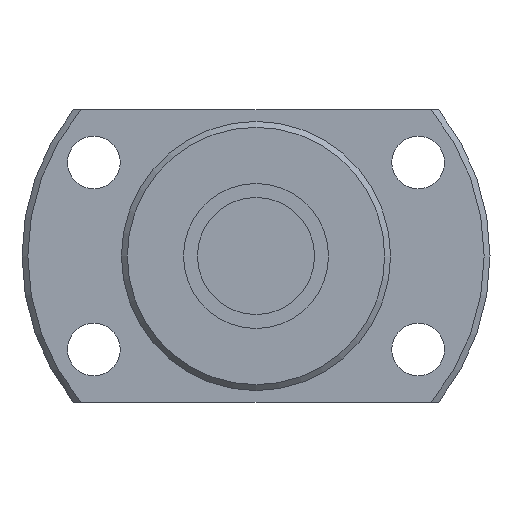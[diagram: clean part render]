
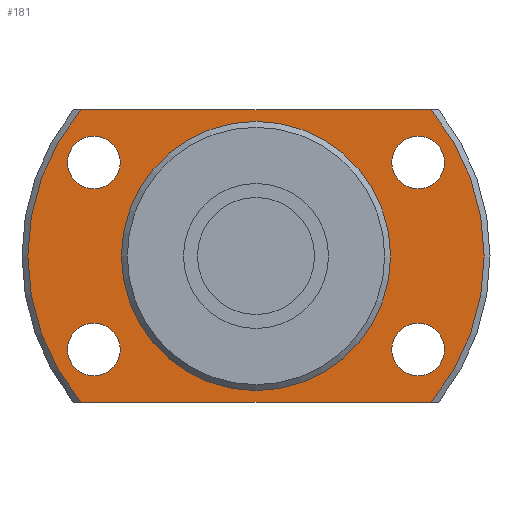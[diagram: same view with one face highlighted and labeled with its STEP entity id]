
A CAD part, left-side view. The second image highlights one B-rep face of the part: STEP entity #181.
In plain terms, the highlighted planar face has unit normal (-1, 0, 0).
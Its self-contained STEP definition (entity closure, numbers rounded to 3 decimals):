
#181 = ADVANCED_FACE( '', ( #229, #230, #231, #232, #233, #234 ), #235, .F. );
#229 = FACE_OUTER_BOUND( '', #309, .T. );
#230 = FACE_BOUND( '', #310, .T. );
#231 = FACE_BOUND( '', #311, .T. );
#232 = FACE_BOUND( '', #312, .T. );
#233 = FACE_BOUND( '', #313, .T. );
#234 = FACE_BOUND( '', #314, .T. );
#235 = PLANE( '', #315 );
#309 = EDGE_LOOP( '', ( #440, #441, #442, #443 ) );
#310 = EDGE_LOOP( '', ( #444 ) );
#311 = EDGE_LOOP( '', ( #445 ) );
#312 = EDGE_LOOP( '', ( #446 ) );
#313 = EDGE_LOOP( '', ( #447 ) );
#314 = EDGE_LOOP( '', ( #448 ) );
#315 = AXIS2_PLACEMENT_3D( '', #449, #450, #451 );
#440 = ORIENTED_EDGE( '', *, *, #540, .F. );
#441 = ORIENTED_EDGE( '', *, *, #560, .T. );
#442 = ORIENTED_EDGE( '', *, *, #551, .F. );
#443 = ORIENTED_EDGE( '', *, *, #534, .T. );
#444 = ORIENTED_EDGE( '', *, *, #561, .T. );
#445 = ORIENTED_EDGE( '', *, *, #562, .T. );
#446 = ORIENTED_EDGE( '', *, *, #563, .T. );
#447 = ORIENTED_EDGE( '', *, *, #564, .T. );
#448 = ORIENTED_EDGE( '', *, *, #565, .T. );
#449 = CARTESIAN_POINT( '', ( 21., 11.35, 0. ) );
#450 = DIRECTION( '', ( 1., 0., 0. ) );
#451 = DIRECTION( '', ( 0., 0., -1. ) );
#534 = EDGE_CURVE( '', #586, #584, #587, .T. );
#540 = EDGE_CURVE( '', #597, #584, #598, .T. );
#551 = EDGE_CURVE( '', #586, #615, #616, .T. );
#560 = EDGE_CURVE( '', #597, #615, #630, .T. );
#561 = EDGE_CURVE( '', #631, #631, #632, .T. );
#562 = EDGE_CURVE( '', #633, #633, #634, .T. );
#563 = EDGE_CURVE( '', #635, #635, #636, .T. );
#564 = EDGE_CURVE( '', #637, #637, #638, .T. );
#565 = EDGE_CURVE( '', #639, #639, #640, .T. );
#584 = VERTEX_POINT( '', #667 );
#586 = VERTEX_POINT( '', #672 );
#587 = LINE( '', #673, #674 );
#597 = VERTEX_POINT( '', #695 );
#598 = CIRCLE( '', #696, 19.5 );
#615 = VERTEX_POINT( '', #723 );
#616 = CIRCLE( '', #724, 19.5 );
#630 = LINE( '', #743, #744 );
#631 = VERTEX_POINT( '', #745 );
#632 = CIRCLE( '', #746, 2.25 );
#633 = VERTEX_POINT( '', #747 );
#634 = CIRCLE( '', #748, 2.25 );
#635 = VERTEX_POINT( '', #749 );
#636 = CIRCLE( '', #750, 2.25 );
#637 = VERTEX_POINT( '', #751 );
#638 = CIRCLE( '', #752, 2.25 );
#639 = VERTEX_POINT( '', #753 );
#640 = CIRCLE( '', #754, 11.35 );
#667 = CARTESIAN_POINT( '', ( 21., 14.967, 12.5 ) );
#672 = CARTESIAN_POINT( '', ( 21., -14.967, 12.5 ) );
#673 = CARTESIAN_POINT( '', ( 21., 11.35, 12.5 ) );
#674 = VECTOR( '', #782, 1000. );
#695 = CARTESIAN_POINT( '', ( 21., 14.967, -12.5 ) );
#696 = AXIS2_PLACEMENT_3D( '', #785, #786, #787 );
#723 = CARTESIAN_POINT( '', ( 21., -14.967, -12.5 ) );
#724 = AXIS2_PLACEMENT_3D( '', #807, #808, #809 );
#743 = CARTESIAN_POINT( '', ( 21., 11.35, -12.5 ) );
#744 = VECTOR( '', #827, 1000. );
#745 = CARTESIAN_POINT( '', ( 21., -13.856, 5.75 ) );
#746 = AXIS2_PLACEMENT_3D( '', #828, #829, #830 );
#747 = CARTESIAN_POINT( '', ( 21., -13.856, -10.25 ) );
#748 = AXIS2_PLACEMENT_3D( '', #831, #832, #833 );
#749 = CARTESIAN_POINT( '', ( 21., 13.856, -10.25 ) );
#750 = AXIS2_PLACEMENT_3D( '', #834, #835, #836 );
#751 = CARTESIAN_POINT( '', ( 21., 13.856, 5.75 ) );
#752 = AXIS2_PLACEMENT_3D( '', #837, #838, #839 );
#753 = CARTESIAN_POINT( '', ( 21., 0., -11.35 ) );
#754 = AXIS2_PLACEMENT_3D( '', #840, #841, #842 );
#782 = DIRECTION( '', ( 0., 1., 0. ) );
#785 = CARTESIAN_POINT( '', ( 21., 0., 0. ) );
#786 = DIRECTION( '', ( 1., 0., 0. ) );
#787 = DIRECTION( '', ( 0., 0., -1. ) );
#807 = CARTESIAN_POINT( '', ( 21., 0., 0. ) );
#808 = DIRECTION( '', ( 1., 0., 0. ) );
#809 = DIRECTION( '', ( 0., 0., -1. ) );
#827 = DIRECTION( '', ( 0., -1., 0. ) );
#828 = CARTESIAN_POINT( '', ( 21., -13.856, 8. ) );
#829 = DIRECTION( '', ( 1., 0., 0. ) );
#830 = DIRECTION( '', ( 0., 0., -1. ) );
#831 = CARTESIAN_POINT( '', ( 21., -13.856, -8. ) );
#832 = DIRECTION( '', ( 1., 0., 0. ) );
#833 = DIRECTION( '', ( 0., 0., -1. ) );
#834 = CARTESIAN_POINT( '', ( 21., 13.856, -8. ) );
#835 = DIRECTION( '', ( 1., 0., 0. ) );
#836 = DIRECTION( '', ( 0., 0., -1. ) );
#837 = CARTESIAN_POINT( '', ( 21., 13.856, 8. ) );
#838 = DIRECTION( '', ( 1., 0., 0. ) );
#839 = DIRECTION( '', ( 0., 0., -1. ) );
#840 = CARTESIAN_POINT( '', ( 21., 0., 0. ) );
#841 = DIRECTION( '', ( 1., 0., 0. ) );
#842 = DIRECTION( '', ( 0., 0., -1. ) );
